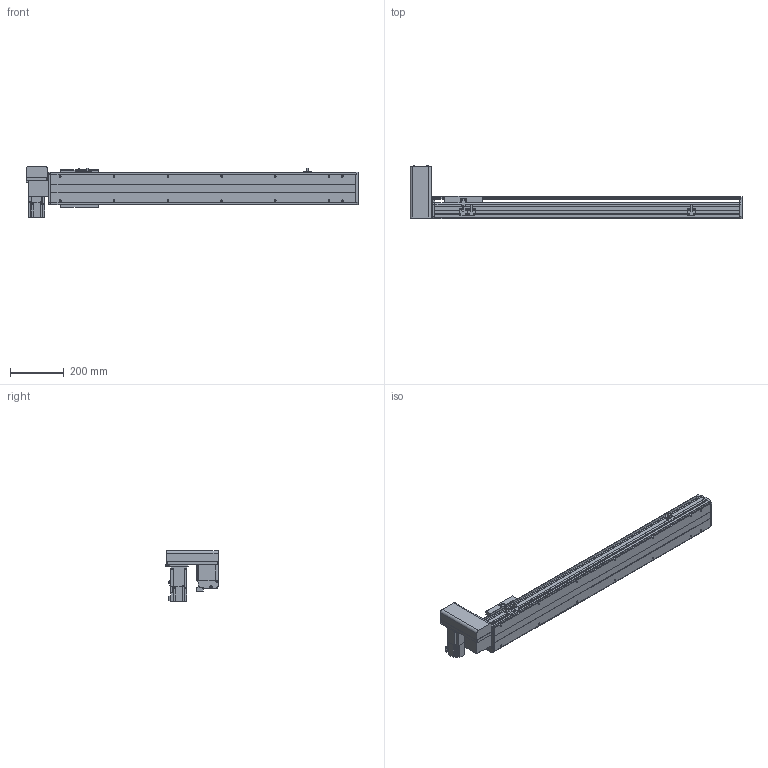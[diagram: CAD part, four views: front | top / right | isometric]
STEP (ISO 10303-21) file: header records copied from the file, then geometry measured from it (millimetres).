
FILE_DESCRIPTION(/* description */ ('STEP AP214'),/* implementation_level */ '2;1');
FILE_NAME(/* name */ 'PBS120-P40-S850-RU-T40-C1-N(0)',/* time_stamp */ '2022-06-06T02:49:20+02:00',/* author */ ('License CC BY-ND 4.0'),/* organization */ ('CADENAS'),/* preprocessor_version */ 'ST-DEVELOPER v18.102',/* originating_system */ 'PARTsolutions',/* authorisation */ ' ');
FILE_SCHEMA (('AUTOMOTIVE_DESIGN {1 0 10303 214 3 1 1}'));
Length unit declared in the file: millimetre
Products named in the file (7): PBS120-P40-S850-RU-T40-C1-N(0); PBS120_sensor; PBS120_plant; PBS120_sliser; T40-p1; PBS120T-RU_motors; PBS120-S850()_body
Assembly tree (8 placements, depth 2):
  PBS120-P40-S850-RU-T40-C1-N(0)
    PBS120_sensor  x3
    PBS120_plant
    PBS120_sliser
    T40-p1
    PBS120T-RU_motors
    PBS120-S850()_body
Bounding box: 1236 x 198 x 189.7 mm (x, y, z)
Volume: 5472842.1 mm3; surface area: 1056178.9 mm2
Topology: 8 solids, 8 shells, 822 faces, 2146 edges, 1381 vertices
Faces by surface type: plane 547, cylinder 227, cone 46, torus 2
Full cylindrical faces by diameter (mm): 2.459 x6, 3.242 x4, 4 x2, 4.134 x4, 4.5 x10, 4.917 x18, 5.5 x11, 6 x2, 6.6 x1, 7 x2, 8.5 x4, 9 x4, 12 x1, 14 x1, 30 x2, 40 x1, 50 x2
Entity records: 21474 total; most frequent: DIRECTION 3716, CARTESIAN_POINT 3659, ORIENTED_EDGE 3490, EDGE_CURVE 1745, AXIS2_PLACEMENT_3D 1244, LINE 1228, VECTOR 1228, VERTEX_POINT 1187
